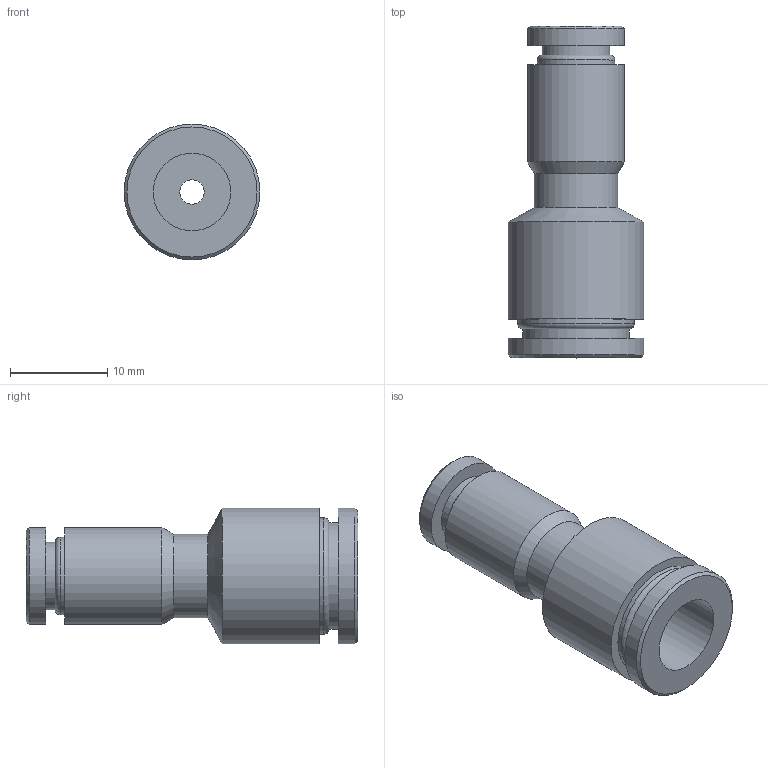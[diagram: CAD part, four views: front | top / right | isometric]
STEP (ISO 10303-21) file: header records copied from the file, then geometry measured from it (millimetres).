
FILE_DESCRIPTION(/* description */ (''),/* implementation_level */ '2;1');
FILE_NAME(/* name */ 'LXH10 0804 00.stp',/* time_stamp */ '2026-04-29T14:26:44+02:00',/* author */ ('freju'),/* organization */ (''),/* preprocessor_version */ 'ST-DEVELOPER v20.1',/* originating_system */ 'Autodesk Inventor 2026',/* authorisation */ '');
FILE_SCHEMA (('AUTOMOTIVE_DESIGN { 1 0 10303 214 3 1 1 }'));
Length unit declared in the file: millimetre
Products named in the file (1): LXH10 0804 00
Bounding box: 14 x 34.2 x 14 mm (x, y, z)
Volume: 2475.9 mm3; surface area: 2290.5 mm2
Topology: 1 solids, 1 shells, 26 faces, 51 edges, 33 vertices
Faces by surface type: cylinder 12, plane 8, cone 4, torus 2
Full cylindrical faces by diameter (mm): 2.5 x1, 4 x1, 7 x1, 8 x2, 8.6 x1, 10 x2, 11 x1, 12 x1, 14 x2
Entity records: 733 total; most frequent: DIRECTION 140, CARTESIAN_POINT 111, ORIENTED_EDGE 102, AXIS2_PLACEMENT_3D 62, EDGE_CURVE 51, CIRCLE 35, EDGE_LOOP 34, VERTEX_POINT 33
